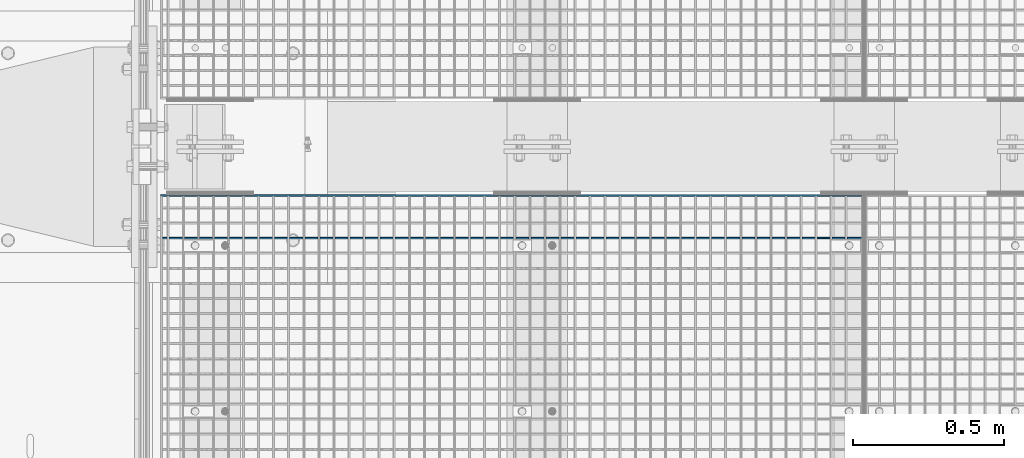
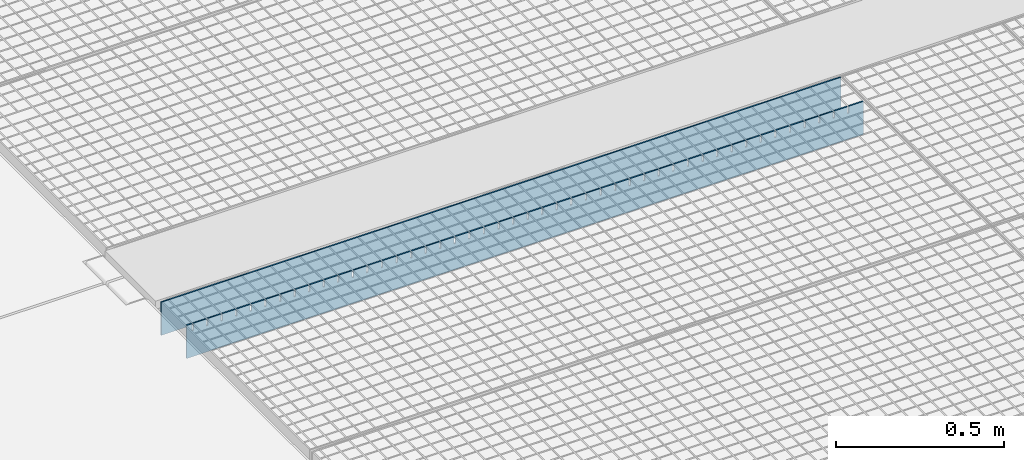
# One storey, part 269 of 1530: 2 beams.
"""IFC2X3 building model written with IfcOpenShell, lengths in millimetres."""

from ifc_helpers import new_model, si_unit, frame, origin_with_axes, place, context, subcontext, project, spatial, faceted_brep, material, type_object, element, save


model = new_model("IFC2X3")

# Units and contexts
model_context = context("Model", 3, precision=1e-05, world=origin_with_axes())
body_context = subcontext(model_context, "Body", "Model", "MODEL_VIEW")
ifc_project = project(units=[si_unit("LENGTHUNIT", "METRE", prefix="MILLI"), si_unit("AREAUNIT", "SQUARE_METRE"), si_unit("VOLUMEUNIT", "CUBIC_METRE"), si_unit("MASSUNIT", "GRAM", prefix="KILO"), si_unit("TIMEUNIT", "SECOND"), si_unit("PLANEANGLEUNIT", "RADIAN"), si_unit("SOLIDANGLEUNIT", "STERADIAN"), si_unit("THERMODYNAMICTEMPERATUREUNIT", "DEGREE_CELSIUS"), si_unit("LUMINOUSINTENSITYUNIT", "LUMEN")], contexts=[model_context])

# Site, building, storey
site_placement = place(None, origin_with_axes())
site = spatial("IfcSite", under=ifc_project, at=site_placement, Name="Brattvåg", CompositionType="ELEMENT")
building_placement = place(site_placement, origin_with_axes())
building = spatial("IfcBuilding", under=site, at=building_placement, Name="Undefined", CompositionType="ELEMENT")
storey_placement = place(building_placement, origin_with_axes())
storey = spatial("IfcBuildingStorey", under=building, at=storey_placement, Name="Undefined", CompositionType="ELEMENT", Elevation=0.0)

# Beams
ifc_material = material(Name="STEEL/S355J2")
beam_type = type_object("IfcBeamType", Name="120*5", PredefinedType="NOTDEFINED")
beam_1_placement = place(storey_placement, frame((2347.01317977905, 2696.99563598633, -59.9998626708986), z_axis=(0.0, 0.0, 1.0), x_axis=(-1.0, 1.99999855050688e-09, 0.0)))
element("IfcBeam", 1, at=beam_1_placement, inside=storey, type_object=beam_type, material=ifc_material, Name="GRATING", context=body_context, shape_type="Brep", body=[
    faceted_brep([(99.4490367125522, -2.50000000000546, 60.0000722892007), (99.4490367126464, -2.50000000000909, 35.0001373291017), (99.4490367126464, 2.50022888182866, 35.0001373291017), (99.4490367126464, 2.5, 60.0), (104.449036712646, -2.50000000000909, 35.0001373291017), (104.449036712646, 2.50022888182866, 35.0001373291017), (104.449036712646, -2.50000000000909, 60.0001373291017), (104.449036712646, 2.5, 60.0), (54.5084370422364, -2.50000000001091, 60.0001373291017), (54.5084370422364, 2.5, 60.0), (54.5084370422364, 2.49999999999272, 35.0001373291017), (54.5084370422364, -2.50000000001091, 35.0001373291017), (49.5084370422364, 2.49999999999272, 35.0001373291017), (49.5084370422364, -2.50000000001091, 35.0001373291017), (49.5084370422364, -2.5, 60.0), (49.5084370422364, 2.5, 60.0), (0.0, 2.5, 60.0), (0.0, -2.5, 60.0), (0.0, -2.5, -60.0), (0.0, 2.5, -60.0), (2319.99865722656, 2.5, -60.0), (2319.99865722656, -2.5, -60.0), (2319.99865722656, -2.5, 60.0), (2319.99865722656, 2.5, 60.0), (2302.24871932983, 2.5, 60.0), (2302.24871932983, -2.50000000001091, 60.0001373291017), (2302.24871932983, 2.49999999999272, 35.0001373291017), (2302.24871932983, -2.50000000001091, 35.0001373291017), (2297.24871932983, 2.49999999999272, 35.0001373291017), (2297.24871932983, -2.50000000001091, 35.0001373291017), (2297.24871932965, -2.50000000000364, 60.0000461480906), (2297.24871932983, 2.5, 60.0), (2252.29859649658, 2.5, 60.0), (2252.29859649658, -2.50000000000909, 60.0001373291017), (2252.29859649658, 2.50022888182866, 35.0001373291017), (2252.29859649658, -2.50000000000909, 35.0001373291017), (2247.29859649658, 2.50022888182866, 35.0001373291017), (2247.29859649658, -2.50000000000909, 35.0001373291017), (2247.29859649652, -2.50000000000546, 60.0000848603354), (2247.29859649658, 2.5, 60.0), (2202.34847366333, 2.5, 60.0), (2202.34847366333, -2.50000000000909, 60.0001373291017), (2202.34847366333, 2.50022888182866, 35.0001373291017), (2202.34847366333, -2.50000000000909, 35.0001373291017), (2197.34847366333, 2.50022888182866, 35.0001373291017), (2197.34847366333, -2.50000000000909, 35.0001373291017), (2197.34847366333, -2.5, 60.0), (2197.34847366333, 2.5, 60.0), (2152.39882766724, 2.5, 60.0), (2152.39882766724, -2.50000000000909, 60.0001373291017), (2152.39882766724, 2.50022888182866, 35.0001373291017), (2152.39882766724, -2.50000000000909, 35.0001373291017), (2147.39882766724, 2.50022888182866, 35.0001373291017), (2147.39882766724, -2.50000000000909, 35.0001373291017), (2147.39882766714, -2.50000000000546, 60.0000722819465), (2147.39882766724, 2.5, 60.0), (2102.44870483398, 2.5, 60.0), (2102.44870483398, -2.50000000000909, 60.0001373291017), (2102.44870483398, 2.50022888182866, 35.0001373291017), (2102.44870483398, -2.50000000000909, 35.0001373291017), (2097.44870483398, 2.50022888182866, 35.0001373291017), (2097.44870483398, -2.50000000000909, 35.0001373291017), (2097.44870483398, -2.5, 60.0), (2097.44870483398, 2.5, 60.0), (2052.49858200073, 2.5, 60.0), (2052.49858200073, -2.50000000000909, 60.0001373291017), (2052.49858200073, 2.50022888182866, 35.0001373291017), (2052.49858200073, -2.50000000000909, 35.0001373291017), (2047.49858200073, 2.50022888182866, 35.0001373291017), (2047.49858200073, -2.50000000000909, 35.0001373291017), (2047.49858200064, -2.50000000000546, 60.0000722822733), (2047.49858200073, 2.5, 60.0), (2002.54845916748, 2.5, 60.0), (2002.54845916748, -2.50000000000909, 60.0001373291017), (2002.54845916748, 2.50022888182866, 35.0001373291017), (2002.54845916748, -2.50000000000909, 35.0001373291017), (1997.54845916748, 2.50022888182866, 35.0001373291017), (1997.54845916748, -2.50000000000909, 35.0001373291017), (1997.54845916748, -2.5, 60.0), (1997.54845916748, 2.5, 60.0), (1952.59881317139, 2.5, 60.0), (1952.59881317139, -2.50000000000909, 60.0001373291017), (1952.59881317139, 2.50022888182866, 35.0001373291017), (1952.59881317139, -2.50000000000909, 35.0001373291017), (1947.59881317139, 2.50022888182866, 35.0001373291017), (1947.59881317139, -2.50000000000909, 35.0001373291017), (1947.59881317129, -2.50000000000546, 60.0000722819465), (1947.59881317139, 2.5, 60.0), (1902.64869033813, 2.5, 60.0), (1902.64869033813, -2.50000000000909, 60.0001373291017), (1902.64869033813, 2.50022888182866, 35.0001373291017), (1902.64869033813, -2.50000000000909, 35.0001373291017), (1897.64869033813, 2.50022888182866, 35.0001373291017), (1897.64869033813, -2.50000000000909, 35.0001373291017), (1897.64869033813, -2.5, 60.0), (1897.64869033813, 2.5, 60.0), (1852.69856750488, 2.5, 60.0), (1852.69856750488, -2.50000000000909, 60.0001373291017), (1852.69856750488, 2.50022888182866, 35.0001373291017), (1852.69856750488, -2.50000000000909, 35.0001373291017), (1847.69856750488, 2.50022888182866, 35.0001373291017), (1847.69856750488, -2.50000000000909, 35.0001373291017), (1847.69856750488, -2.5, 60.0), (1847.69856750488, 2.5, 60.0), (1802.74892150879, 2.5, 60.0), (1802.74892150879, -2.50000000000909, 60.0001373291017), (1802.74892150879, 2.50022888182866, 35.0001373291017), (1802.74892150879, -2.50000000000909, 35.0001373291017), (1797.74892150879, 2.50022888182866, 35.0001373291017), (1797.74892150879, -2.50000000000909, 35.0001373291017), (1797.74892150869, -2.50000000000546, 60.0000722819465), (1797.74892150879, 2.5, 60.0), (1752.79879867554, 2.5, 60.0), (1752.79879867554, -2.50000000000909, 60.0001373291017), (1752.79879867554, 2.50022888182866, 35.0001373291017), (1752.79879867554, -2.50000000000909, 35.0001373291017), (1747.79879867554, 2.50022888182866, 35.0001373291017), (1747.79879867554, -2.50000000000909, 35.0001373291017), (1747.79879867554, -2.5, 60.0), (1747.79879867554, 2.5, 60.0), (1702.84867584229, 2.5, 60.0), (1702.84867584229, -2.50000000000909, 60.0001373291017), (1702.84867584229, 2.50022888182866, 35.0001373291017), (1702.84867584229, -2.50000000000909, 35.0001373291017), (1697.84867584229, 2.50022888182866, 35.0001373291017), (1697.84867584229, -2.50000000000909, 35.0001373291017), (1697.84867584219, -2.50000000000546, 60.0000722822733), (1697.84867584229, 2.5, 60.0), (1652.89855300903, 2.5, 60.0), (1652.89855300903, -2.50000000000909, 60.0001373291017), (1652.89855300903, 2.50022888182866, 35.0001373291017), (1652.89855300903, -2.50000000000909, 35.0001373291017), (1647.89855300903, 2.50022888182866, 35.0001373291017), (1647.89855300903, -2.50000000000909, 35.0001373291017), (1647.89855300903, -2.5, 60.0), (1647.89855300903, 2.5, 60.0), (1602.94890701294, 2.5, 60.0), (1602.94890701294, -2.50000000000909, 60.0001373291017), (1602.94890701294, 2.50022888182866, 35.0001373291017), (1602.94890701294, -2.50000000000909, 35.0001373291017), (1597.94890701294, 2.50022888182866, 35.0001373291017), (1597.94890701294, -2.50000000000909, 35.0001373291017), (1597.94890701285, -2.50000000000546, 60.0000722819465), (1597.94890701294, 2.5, 60.0), (1552.99878417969, 2.5, 60.0), (1552.99878417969, -2.50000000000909, 60.0001373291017), (1552.99878417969, 2.50022888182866, 35.0001373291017), (1552.99878417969, -2.50000000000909, 35.0001373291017), (1547.99878417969, 2.50022888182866, 35.0001373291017), (1547.99878417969, -2.50000000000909, 35.0001373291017), (1547.99878417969, -2.5, 60.0), (1547.99878417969, 2.5, 60.0), (1503.04866134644, 2.5, 60.0), (1503.04866134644, -2.50000000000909, 60.0001373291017), (1503.04866134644, 2.50022888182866, 35.0001373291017), (1503.04866134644, -2.50000000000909, 35.0001373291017), (1498.04866134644, 2.50022888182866, 35.0001373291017), (1498.04866134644, -2.50000000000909, 35.0001373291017), (1498.04866134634, -2.50000000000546, 60.0000722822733), (1498.04866134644, 2.5, 60.0), (1453.09853851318, 2.5, 60.0), (1453.09853851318, -2.50000000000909, 60.0001373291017), (1453.09853851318, 2.50022888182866, 35.0001373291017), (1453.09853851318, -2.50000000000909, 35.0001373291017), (1448.09853851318, 2.50022888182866, 35.0001373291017), (1448.09853851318, -2.50000000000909, 35.0001373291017), (1448.09853851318, -2.5, 60.0), (1448.09853851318, 2.5, 60.0), (1403.14889251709, 2.5, 60.0), (1403.14889251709, -2.50000000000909, 60.0001373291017), (1403.14889251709, 2.50022888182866, 35.0001373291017), (1403.14889251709, -2.50000000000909, 35.0001373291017), (1398.14889251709, 2.50022888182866, 35.0001373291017), (1398.14889251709, -2.50000000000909, 35.0001373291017), (1398.148892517, -2.50000000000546, 60.0000722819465), (1398.14889251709, 2.5, 60.0), (1353.19876968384, 2.5, 60.0), (1353.19876968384, -2.50000000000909, 60.0001373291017), (1353.19876968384, 2.50022888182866, 35.0001373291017), (1353.19876968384, -2.50000000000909, 35.0001373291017), (1348.19876968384, 2.50022888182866, 35.0001373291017), (1348.19876968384, -2.50000000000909, 35.0001373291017), (1348.19876968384, -2.5, 60.0), (1348.19876968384, 2.5, 60.0), (1303.24864685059, 2.5, 60.0), (1303.24864685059, -2.50000000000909, 60.0001373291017), (1303.24864685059, 2.50022888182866, 35.0001373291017), (1303.24864685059, -2.50000000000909, 35.0001373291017), (1298.24864685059, 2.50022888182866, 35.0001373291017), (1298.24864685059, -2.50000000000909, 35.0001373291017), (1298.24864685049, -2.50000000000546, 60.0000722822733), (1298.24864685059, 2.5, 60.0), (1253.29852401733, 2.5, 60.0), (1253.29852401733, -2.50000000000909, 60.0001373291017), (1253.29852401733, 2.50022888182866, 35.0001373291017), (1253.29852401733, -2.50000000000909, 35.0001373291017), (1248.29852401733, 2.50022888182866, 35.0001373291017), (1248.29852401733, -2.50000000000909, 35.0001373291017), (1248.29852401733, -2.5, 60.0), (1248.29852401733, 2.5, 60.0), (1203.34887802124, 2.5, 60.0), (1203.34887802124, -2.50000000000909, 60.0001373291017), (1203.34887802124, 2.50022888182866, 35.0001373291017), (1203.34887802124, -2.50000000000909, 35.0001373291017), (1198.34887802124, 2.50022888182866, 35.0001373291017), (1198.34887802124, -2.50000000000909, 35.0001373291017), (1198.34887802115, -2.50000000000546, 60.0000722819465), (1198.34887802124, 2.5, 60.0), (1153.39875518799, 2.5, 60.0), (1153.39875518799, -2.50000000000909, 60.0001373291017), (1153.39875518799, 2.50022888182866, 35.0001373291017), (1153.39875518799, -2.50000000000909, 35.0001373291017), (1148.39875518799, 2.50022888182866, 35.0001373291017), (1148.39875518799, -2.50000000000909, 35.0001373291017), (1148.39875518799, -2.5, 60.0), (1148.39875518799, 2.5, 60.0), (1103.44863235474, 2.5, 60.0), (1103.44863235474, -2.50000000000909, 60.0001373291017), (1103.44863235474, 2.50022888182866, 35.0001373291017), (1103.44863235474, -2.50000000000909, 35.0001373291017), (1098.44863235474, 2.50022888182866, 35.0001373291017), (1098.44863235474, -2.50000000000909, 35.0001373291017), (1098.44863235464, -2.50000000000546, 60.0000722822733), (1098.44863235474, 2.5, 60.0), (1053.49850952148, 2.5, 60.0), (1053.49850952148, -2.50000000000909, 60.0001373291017), (1053.49850952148, 2.50022888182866, 35.0001373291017), (1053.49850952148, -2.50000000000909, 35.0001373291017), (1048.49850952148, 2.50022888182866, 35.0001373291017), (1048.49850952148, -2.50000000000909, 35.0001373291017), (1048.49850952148, -2.5, 60.0), (1048.49850952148, 2.5, 60.0), (1003.54886352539, 2.5, 60.0), (1003.54886352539, -2.50000000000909, 60.0001373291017), (1003.54886352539, 2.50022888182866, 35.0001373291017), (1003.54886352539, -2.50000000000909, 35.0001373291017), (998.548863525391, 2.50022888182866, 35.0001373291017), (998.548863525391, -2.50000000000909, 35.0001373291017), (998.548863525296, -2.50000000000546, 60.0000722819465), (998.548863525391, 2.5, 60.0), (953.598740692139, 2.5, 60.0), (953.598740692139, -2.50000000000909, 60.0001373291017), (953.598740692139, 2.50022888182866, 35.0001373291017), (953.598740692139, -2.50000000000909, 35.0001373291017), (948.598740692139, 2.50022888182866, 35.0001373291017), (948.598740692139, -2.50000000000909, 35.0001373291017), (948.598740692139, -2.5, 60.0), (948.598740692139, 2.5, 60.0), (903.648617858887, 2.5, 60.0), (903.648617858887, -2.50000000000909, 60.0001373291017), (903.648617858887, 2.50022888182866, 35.0001373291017), (903.648617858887, -2.50000000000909, 35.0001373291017), (898.648617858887, 2.50022888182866, 35.0001373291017), (898.648617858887, -2.50000000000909, 35.0001373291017), (898.648617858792, -2.50000000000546, 60.0000722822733), (898.648617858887, 2.5, 60.0), (853.698495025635, 2.5, 60.0), (853.698495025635, -2.50000000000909, 60.0001373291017), (853.698495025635, 2.50022888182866, 35.0001373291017), (853.698495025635, -2.50000000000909, 35.0001373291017), (848.698495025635, 2.50022888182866, 35.0001373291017), (848.698495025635, -2.50000000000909, 35.0001373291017), (848.698495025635, -2.5, 60.0), (848.698495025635, 2.5, 60.0), (803.748849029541, 2.5, 60.0), (803.748849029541, -2.50000000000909, 60.0001373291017), (803.748849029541, 2.50022888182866, 35.0001373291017), (803.748849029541, -2.50000000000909, 35.0001373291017), (798.748849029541, 2.50022888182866, 35.0001373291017), (798.748849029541, -2.50000000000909, 35.0001373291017), (798.748849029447, -2.50000000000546, 60.0000722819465), (798.748849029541, 2.5, 60.0), (753.798726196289, 2.5, 60.0), (753.798726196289, -2.50000000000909, 60.0001373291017), (753.798726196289, 2.50022888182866, 35.0001373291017), (753.798726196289, -2.50000000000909, 35.0001373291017), (748.798726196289, 2.50022888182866, 35.0001373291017), (748.798726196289, -2.50000000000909, 35.0001373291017), (748.798726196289, -2.5, 60.0), (748.798726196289, 2.5, 60.0), (703.848603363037, 2.5, 60.0), (703.848603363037, -2.50000000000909, 60.0001373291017), (703.848603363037, 2.50022888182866, 35.0001373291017), (703.848603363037, -2.50000000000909, 35.0001373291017), (698.848603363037, 2.50022888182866, 35.0001373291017), (698.848603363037, -2.50000000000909, 35.0001373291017), (698.848603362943, -2.50000000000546, 60.0000722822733), (698.848603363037, 2.5, 60.0), (653.898480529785, 2.5, 60.0), (653.898480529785, -2.50000000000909, 60.0001373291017), (653.898480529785, 2.50022888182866, 35.0001373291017), (653.898480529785, -2.50000000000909, 35.0001373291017), (648.898480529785, 2.50022888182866, 35.0001373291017), (648.898480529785, -2.50000000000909, 35.0001373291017), (648.898480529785, -2.5, 60.0), (648.898480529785, 2.5, 60.0), (603.948834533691, 2.5, 60.0), (603.948834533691, -2.50000000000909, 60.0001373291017), (603.948834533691, 2.50022888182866, 35.0001373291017), (603.948834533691, -2.50000000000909, 35.0001373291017), (598.948834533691, 2.50022888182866, 35.0001373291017), (598.948834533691, -2.50000000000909, 35.0001373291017), (598.948834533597, -2.50000000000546, 60.0000722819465), (598.948834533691, 2.5, 60.0), (553.998711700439, 2.5, 60.0), (553.998711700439, -2.50000000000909, 60.0001373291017), (553.998711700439, 2.50022888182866, 35.0001373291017), (553.998711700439, -2.50000000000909, 35.0001373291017), (548.998711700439, 2.50022888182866, 35.0001373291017), (548.998711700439, -2.50000000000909, 35.0001373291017), (548.998711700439, -2.5, 60.0), (548.998711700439, 2.5, 60.0), (504.048588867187, 2.5, 60.0), (504.048588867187, -2.50000000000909, 60.0001373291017), (504.048588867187, 2.50022888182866, 35.0001373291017), (504.048588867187, -2.50000000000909, 35.0001373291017), (499.048588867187, 2.50022888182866, 35.0001373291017), (499.048588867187, -2.50000000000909, 35.0001373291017), (499.048588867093, -2.50000000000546, 60.0000722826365), (499.048588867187, 2.5, 60.0), (454.098942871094, 2.5, 60.0), (454.098942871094, -2.50000000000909, 60.0001373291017), (454.098942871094, 2.50022888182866, 35.0001373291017), (454.098942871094, -2.50000000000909, 35.0001373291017), (449.098942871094, 2.50022888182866, 35.0001373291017), (449.098942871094, -2.50000000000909, 35.0001373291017), (449.098942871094, -2.5, 60.0), (449.098942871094, 2.5, 60.0), (404.148820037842, 2.5, 60.0), (404.148820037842, -2.50000000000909, 60.0001373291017), (404.148820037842, 2.50022888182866, 35.0001373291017), (404.148820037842, -2.50000000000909, 35.0001373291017), (399.148820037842, 2.50022888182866, 35.0001373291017), (399.148820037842, -2.50000000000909, 35.0001373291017), (399.148820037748, -2.50000000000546, 60.0000722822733), (399.148820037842, 2.5, 60.0), (354.19869720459, 2.5, 60.0), (354.19869720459, -2.50000000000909, 60.0001373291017), (354.19869720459, 2.50022888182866, 35.0001373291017), (354.19869720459, -2.50000000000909, 35.0001373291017), (349.19869720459, 2.50022888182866, 35.0001373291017), (349.19869720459, -2.50000000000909, 35.0001373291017), (349.19869720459, -2.5, 60.0), (349.19869720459, 2.5, 60.0), (304.248574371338, 2.5, 60.0), (304.248574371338, -2.50000000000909, 60.0001373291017), (304.248574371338, 2.50022888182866, 35.0001373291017), (304.248574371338, -2.50000000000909, 35.0001373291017), (299.248574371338, 2.50022888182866, 35.0001373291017), (299.248574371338, -2.50000000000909, 35.0001373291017), (299.248574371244, -2.50000000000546, 60.0000722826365), (299.248574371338, 2.5, 60.0), (254.298928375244, 2.5, 60.0), (254.298928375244, -2.50000000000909, 60.0001373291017), (254.298928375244, 2.50022888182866, 35.0001373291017), (254.298928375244, -2.50000000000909, 35.0001373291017), (249.298928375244, 2.50022888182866, 35.0001373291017), (249.298928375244, -2.50000000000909, 35.0001373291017), (249.298928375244, -2.5, 60.0), (249.298928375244, 2.5, 60.0), (204.348328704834, 2.5, 60.0), (204.348328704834, -2.50000000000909, 60.0001373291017), (204.348328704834, 2.50022888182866, 35.0001373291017), (204.348328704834, -2.50000000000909, 35.0001373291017), (199.348328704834, 2.50022888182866, 35.0001373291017), (199.348328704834, -2.50000000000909, 35.0001373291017), (199.34832870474, -2.50000000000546, 60.0000722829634), (199.348328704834, 2.5, 60.0), (154.39868270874, 2.5, 60.0), (154.39868270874, -2.50000000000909, 60.0001373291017), (154.39868270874, 2.50022888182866, 35.0001373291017), (154.39868270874, -2.50000000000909, 35.0001373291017), (149.39868270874, 2.50022888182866, 35.0001373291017), (149.39868270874, -2.50000000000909, 35.0001373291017), (149.39868270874, -2.5, 60.0), (149.39868270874, 2.5, 60.0)], [[[0, 1, 2, 3]], [[4, 5, 2, 1]], [[6, 7, 5, 4]], [[8, 9, 10, 11]], [[11, 10, 12, 13]], [[14, 13, 12, 15]], [[16, 17, 14, 15]], [[18, 17, 16, 19]], [[18, 19, 20, 21]], [[22, 21, 20, 23]], [[22, 23, 24, 25]], [[25, 24, 26, 27]], [[27, 26, 28, 29]], [[30, 29, 28, 31]], [[32, 33, 30, 31]], [[33, 32, 34, 35]], [[35, 34, 36, 37]], [[38, 37, 36, 39]], [[40, 41, 38, 39]], [[41, 40, 42, 43]], [[43, 42, 44, 45]], [[46, 45, 44, 47]], [[46, 47, 48, 49]], [[49, 48, 50, 51]], [[51, 50, 52, 53]], [[54, 53, 52, 55]], [[56, 57, 54, 55]], [[57, 56, 58, 59]], [[59, 58, 60, 61]], [[62, 61, 60, 63]], [[62, 63, 64, 65]], [[65, 64, 66, 67]], [[67, 66, 68, 69]], [[70, 69, 68, 71]], [[72, 73, 70, 71]], [[73, 72, 74, 75]], [[75, 74, 76, 77]], [[78, 77, 76, 79]], [[78, 79, 80, 81]], [[81, 80, 82, 83]], [[83, 82, 84, 85]], [[86, 85, 84, 87]], [[88, 89, 86, 87]], [[89, 88, 90, 91]], [[91, 90, 92, 93]], [[94, 93, 92, 95]], [[94, 95, 96, 97]], [[97, 96, 98, 99]], [[99, 98, 100, 101]], [[102, 101, 100, 103]], [[102, 103, 104, 105]], [[105, 104, 106, 107]], [[107, 106, 108, 109]], [[110, 109, 108, 111]], [[112, 113, 110, 111]], [[113, 112, 114, 115]], [[115, 114, 116, 117]], [[118, 117, 116, 119]], [[118, 119, 120, 121]], [[121, 120, 122, 123]], [[123, 122, 124, 125]], [[126, 125, 124, 127]], [[128, 129, 126, 127]], [[129, 128, 130, 131]], [[131, 130, 132, 133]], [[134, 133, 132, 135]], [[134, 135, 136, 137]], [[137, 136, 138, 139]], [[139, 138, 140, 141]], [[142, 141, 140, 143]], [[144, 145, 142, 143]], [[145, 144, 146, 147]], [[147, 146, 148, 149]], [[150, 149, 148, 151]], [[150, 151, 152, 153]], [[153, 152, 154, 155]], [[155, 154, 156, 157]], [[158, 157, 156, 159]], [[160, 161, 158, 159]], [[161, 160, 162, 163]], [[163, 162, 164, 165]], [[166, 165, 164, 167]], [[166, 167, 168, 169]], [[169, 168, 170, 171]], [[171, 170, 172, 173]], [[174, 173, 172, 175]], [[176, 177, 174, 175]], [[177, 176, 178, 179]], [[179, 178, 180, 181]], [[182, 181, 180, 183]], [[182, 183, 184, 185]], [[185, 184, 186, 187]], [[187, 186, 188, 189]], [[190, 189, 188, 191]], [[192, 193, 190, 191]], [[193, 192, 194, 195]], [[195, 194, 196, 197]], [[198, 197, 196, 199]], [[198, 199, 200, 201]], [[201, 200, 202, 203]], [[203, 202, 204, 205]], [[206, 205, 204, 207]], [[208, 209, 206, 207]], [[209, 208, 210, 211]], [[211, 210, 212, 213]], [[214, 213, 212, 215]], [[214, 215, 216, 217]], [[217, 216, 218, 219]], [[219, 218, 220, 221]], [[222, 221, 220, 223]], [[224, 225, 222, 223]], [[225, 224, 226, 227]], [[227, 226, 228, 229]], [[230, 229, 228, 231]], [[230, 231, 232, 233]], [[233, 232, 234, 235]], [[235, 234, 236, 237]], [[238, 237, 236, 239]], [[240, 241, 238, 239]], [[241, 240, 242, 243]], [[243, 242, 244, 245]], [[246, 245, 244, 247]], [[246, 247, 248, 249]], [[249, 248, 250, 251]], [[251, 250, 252, 253]], [[254, 253, 252, 255]], [[256, 257, 254, 255]], [[257, 256, 258, 259]], [[259, 258, 260, 261]], [[262, 261, 260, 263]], [[262, 263, 264, 265]], [[265, 264, 266, 267]], [[267, 266, 268, 269]], [[270, 269, 268, 271]], [[272, 273, 270, 271]], [[273, 272, 274, 275]], [[275, 274, 276, 277]], [[278, 277, 276, 279]], [[278, 279, 280, 281]], [[281, 280, 282, 283]], [[283, 282, 284, 285]], [[286, 285, 284, 287]], [[288, 289, 286, 287]], [[289, 288, 290, 291]], [[291, 290, 292, 293]], [[294, 293, 292, 295]], [[294, 295, 296, 297]], [[297, 296, 298, 299]], [[299, 298, 300, 301]], [[302, 301, 300, 303]], [[304, 305, 302, 303]], [[305, 304, 306, 307]], [[307, 306, 308, 309]], [[310, 309, 308, 311]], [[310, 311, 312, 313]], [[313, 312, 314, 315]], [[315, 314, 316, 317]], [[318, 317, 316, 319]], [[320, 321, 318, 319]], [[321, 320, 322, 323]], [[323, 322, 324, 325]], [[326, 325, 324, 327]], [[326, 327, 328, 329]], [[329, 328, 330, 331]], [[331, 330, 332, 333]], [[334, 333, 332, 335]], [[336, 337, 334, 335]], [[337, 336, 338, 339]], [[339, 338, 340, 341]], [[342, 341, 340, 343]], [[342, 343, 344, 345]], [[345, 344, 346, 347]], [[347, 346, 348, 349]], [[350, 349, 348, 351]], [[352, 353, 350, 351]], [[353, 352, 354, 355]], [[355, 354, 356, 357]], [[358, 357, 356, 359]], [[358, 359, 360, 361]], [[361, 360, 362, 363]], [[363, 362, 364, 365]], [[366, 365, 364, 367]], [[368, 369, 366, 367]], [[369, 368, 370, 371]], [[371, 370, 372, 373]], [[374, 373, 372, 375]], [[1, 0, 8, 11, 13, 14, 17, 18, 21, 22, 25, 27, 29, 30, 33, 35, 37, 38, 41, 43, 45, 46, 49, 51, 53, 54, 57, 59, 61, 62, 65, 67, 69, 70, 73, 75, 77, 78, 81, 83, 85, 86, 89, 91, 93, 94, 97, 99, 101, 102, 105, 107, 109, 110, 113, 115, 117, 118, 121, 123, 125, 126, 129, 131, 133, 134, 137, 139, 141, 142, 145, 147, 149, 150, 153, 155, 157, 158, 161, 163, 165, 166, 169, 171, 173, 174, 177, 179, 181, 182, 185, 187, 189, 190, 193, 195, 197, 198, 201, 203, 205, 206, 209, 211, 213, 214, 217, 219, 221, 222, 225, 227, 229, 230, 233, 235, 237, 238, 241, 243, 245, 246, 249, 251, 253, 254, 257, 259, 261, 262, 265, 267, 269, 270, 273, 275, 277, 278, 281, 283, 285, 286, 289, 291, 293, 294, 297, 299, 301, 302, 305, 307, 309, 310, 313, 315, 317, 318, 321, 323, 325, 326, 329, 331, 333, 334, 337, 339, 341, 342, 345, 347, 349, 350, 353, 355, 357, 358, 361, 363, 365, 366, 369, 371, 373, 374, 6, 4]], [[9, 8, 0, 3]], [[375, 372, 370, 368, 367, 364, 362, 360, 359, 356, 354, 352, 351, 348, 346, 344, 343, 340, 338, 336, 335, 332, 330, 328, 327, 324, 322, 320, 319, 316, 314, 312, 311, 308, 306, 304, 303, 300, 298, 296, 295, 292, 290, 288, 287, 284, 282, 280, 279, 276, 274, 272, 271, 268, 266, 264, 263, 260, 258, 256, 255, 252, 250, 248, 247, 244, 242, 240, 239, 236, 234, 232, 231, 228, 226, 224, 223, 220, 218, 216, 215, 212, 210, 208, 207, 204, 202, 200, 199, 196, 194, 192, 191, 188, 186, 184, 183, 180, 178, 176, 175, 172, 170, 168, 167, 164, 162, 160, 159, 156, 154, 152, 151, 148, 146, 144, 143, 140, 138, 136, 135, 132, 130, 128, 127, 124, 122, 120, 119, 116, 114, 112, 111, 108, 106, 104, 103, 100, 98, 96, 95, 92, 90, 88, 87, 84, 82, 80, 79, 76, 74, 72, 71, 68, 66, 64, 63, 60, 58, 56, 55, 52, 50, 48, 47, 44, 42, 40, 39, 36, 34, 32, 31, 28, 26, 24, 23, 20, 19, 16, 15, 12, 10, 9, 3, 2, 5, 7]], [[374, 375, 7, 6]]]),
])
beam_2_placement = place(storey_placement, frame((2352.00899291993, 2838.49917602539, -59.9998626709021), z_axis=(0.0, 0.0, 1.0), x_axis=(-1.0, 1.99999855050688e-09, 0.0)))
element("IfcBeam", 2, at=beam_2_placement, inside=storey, type_object=beam_type, material=ifc_material, Name="GRATING", context=body_context, shape_type="Brep", body=[
    faceted_brep([(0.0, 2.5, -60.0), (0.0, 2.5, 60.0), (2329.99832153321, 2.5, 60.0), (2329.99832153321, 2.5, -60.0), (0.0, -2.5, 60.0), (2329.99832153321, -2.5, 60.0), (0.0, -2.5, -60.0), (2329.99832153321, -2.5, -60.0)], [[[0, 1, 2, 3]], [[1, 4, 5, 2]], [[4, 6, 7, 5]], [[6, 0, 3, 7]], [[5, 7, 3, 2]], [[6, 4, 1, 0]]]),
])

save(model, "model.ifc")
